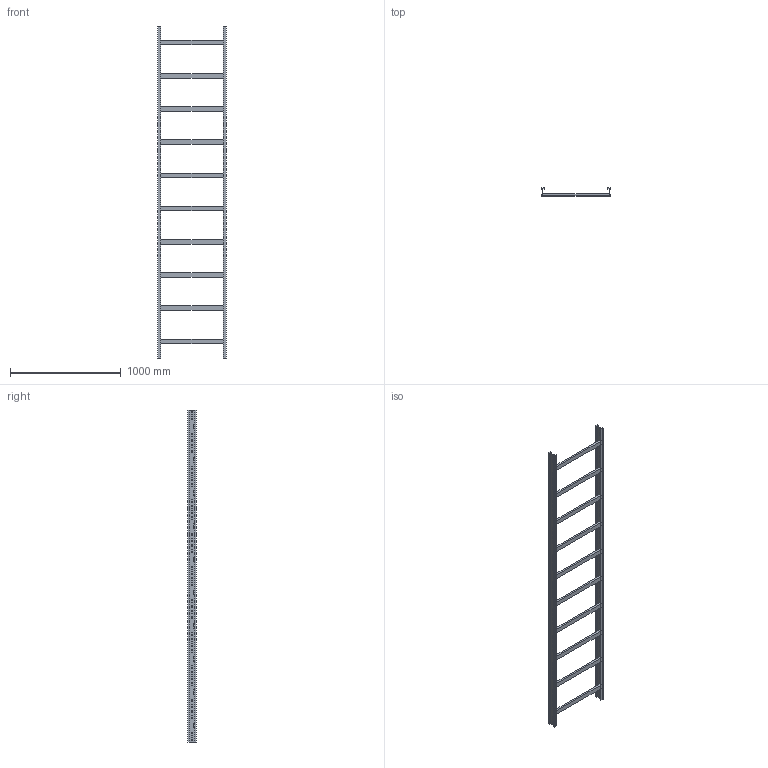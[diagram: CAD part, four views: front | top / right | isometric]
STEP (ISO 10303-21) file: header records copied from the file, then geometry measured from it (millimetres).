
FILE_DESCRIPTION (( 'STEP AP214' ), '1' );
FILE_NAME ('01S3C600.step', '2025-02-21T16:21:07', ( '' ), ( '' ), 'SwSTEP 2.0', 'SolidWorks 2023', '' );
FILE_SCHEMA (( 'AUTOMOTIVE_DESIGN' ));
Length unit declared in the file: millimetre
Products named in the file (3): LONGH.H75; TRAVERSINO_600; 01S3C600
Assembly tree (12 placements, depth 2):
  01S3C600
    LONGH.H75  x2
    TRAVERSINO_600  x10
Bounding box: 618 x 75 x 3000 mm (x, y, z)
Volume: 7765200 mm3; surface area: 2194701 mm2
Topology: 12 solids, 12 shells, 408 faces, 1152 edges, 768 vertices
Faces by surface type: plane 408
Entity records: 6180 total; most frequent: CARTESIAN_POINT 1075, ORIENTED_EDGE 1056, DIRECTION 918, LINE 528, VECTOR 528, EDGE_CURVE 528, VERTEX_POINT 352, EDGE_LOOP 260
